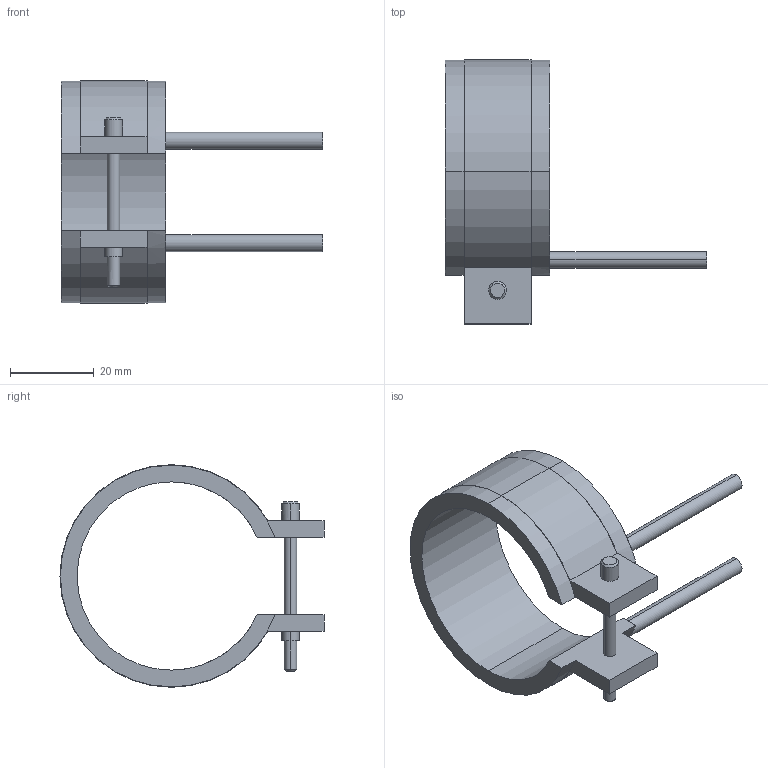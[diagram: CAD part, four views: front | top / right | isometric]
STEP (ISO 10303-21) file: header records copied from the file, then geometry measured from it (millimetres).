
FILE_DESCRIPTION(('CATIA V5 STEP Exchange'),'2;1');
FILE_NAME('C:\Users\Utente\Desktop\IO LAVORO\3D X SITO CF\X SITO\PLASTICA\RF2\14045025.stp','2021-03-31T12:01:21+00:00',('none'),('none'),'CATIA Version 5 Release 20 GA (IN-10)','CATIA V5 STEP AP203','none');
FILE_SCHEMA(('CONFIG_CONTROL_DESIGN'));
Length unit declared in the file: millimetre
Products named in the file (1): 14045025
Bounding box: 62.5 x 63.1 x 53.2 mm (x, y, z)
Volume: 16543.8 mm3; surface area: 10327.3 mm2
Topology: 1 solids, 1 shells, 45 faces, 116 edges, 76 vertices
Faces by surface type: cylinder 24, plane 17, cone 4
Entity records: 1406 total; most frequent: CARTESIAN_POINT 282, ORIENTED_EDGE 232, DIRECTION 195, EDGE_CURVE 116, AXIS2_PLACEMENT_3D 103, VERTEX_POINT 76, CIRCLE 61, VECTOR 52
